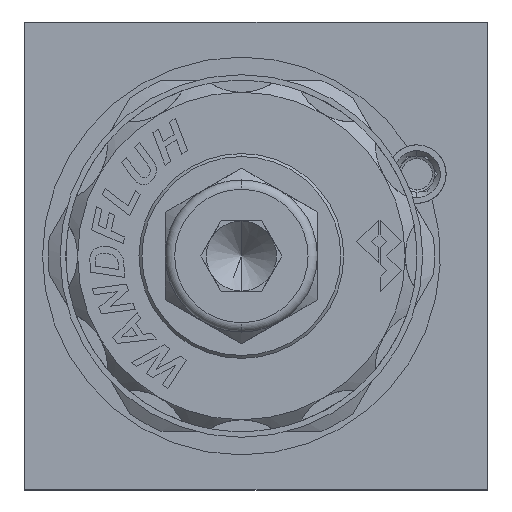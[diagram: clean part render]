
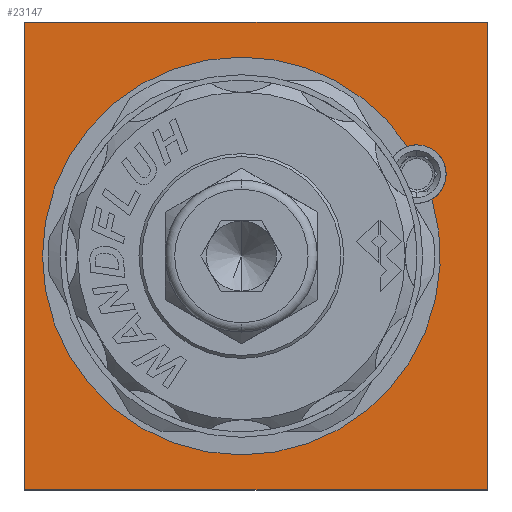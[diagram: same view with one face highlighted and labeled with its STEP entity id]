
A CAD part, left-side view. The second image highlights one B-rep face of the part: STEP entity #23147.
In plain terms, the highlighted planar face has unit normal (-1, 0, 0).
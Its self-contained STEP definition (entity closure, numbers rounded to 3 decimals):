
#702 = AXIS2_PLACEMENT_3D ( 'NONE', #32539, #16149, #35244 ) ;
#949 = CARTESIAN_POINT ( 'NONE',  ( 0., 1.25, 17. ) ) ;
#3431 = DIRECTION ( 'NONE',  ( -1., 0., 0. ) ) ;
#3498 = LINE ( 'NONE', #12699, #31625 ) ;
#4293 = DIRECTION ( 'NONE',  ( 0., 0., 1. ) ) ;
#4836 = CARTESIAN_POINT ( 'NONE',  ( 0., -20.457, 20. ) ) ;
#5235 = DIRECTION ( 'NONE',  ( 0., 1., 0. ) ) ;
#6119 = AXIS2_PLACEMENT_3D ( 'NONE', #28148, #11748, #30837 ) ;
#6897 = DIRECTION ( 'NONE',  ( -1., 0., 0. ) ) ;
#7518 = DIRECTION ( 'NONE',  ( 0., 1., 0. ) ) ;
#10403 = ORIENTED_EDGE ( 'NONE', *, *, #27560, .T. ) ;
#10753 = LINE ( 'NONE', #4836, #31694 ) ;
#11157 = DIRECTION ( 'NONE',  ( -1., 0., 0. ) ) ;
#11729 = VECTOR ( 'NONE', #4293, 1000. ) ;
#11748 = DIRECTION ( 'NONE',  ( -1., 0., 0. ) ) ;
#12353 = CARTESIAN_POINT ( 'NONE',  ( 0., -19.75, -20. ) ) ;
#12699 = CARTESIAN_POINT ( 'NONE',  ( 0., -19.75, -20.707 ) ) ;
#12735 = EDGE_CURVE ( 'NONE', #18059, #20251, #23769, .T. ) ;
#12763 = ORIENTED_EDGE ( 'NONE', *, *, #28170, .T. ) ;
#12892 = CARTESIAN_POINT ( 'NONE',  ( 0., 1.25, -17. ) ) ;
#13168 = DIRECTION ( 'NONE',  ( -1., 0., 0. ) ) ;
#14447 = FACE_OUTER_BOUND ( 'NONE', #18892, .T. ) ;
#15219 = LINE ( 'NONE', #24445, #22519 ) ;
#15296 = FACE_BOUND ( 'NONE', #30835, .T. ) ;
#15353 = CARTESIAN_POINT ( 'NONE',  ( 0., 19.75, -20.707 ) ) ;
#15616 = ORIENTED_EDGE ( 'NONE', *, *, #12735, .F. ) ;
#16149 = DIRECTION ( 'NONE',  ( -1., 0., 0. ) ) ;
#17139 = PLANE ( 'NONE',  #6119 ) ;
#17767 = VERTEX_POINT ( 'NONE', #31822 ) ;
#18059 = VERTEX_POINT ( 'NONE', #12892 ) ;
#18178 = ORIENTED_EDGE ( 'NONE', *, *, #19015, .F. ) ;
#18513 = VERTEX_POINT ( 'NONE', #19615 ) ;
#18892 = EDGE_LOOP ( 'NONE', ( #18178, #21417, #12763, #10403 ) ) ;
#19015 = EDGE_CURVE ( 'NONE', #21242, #18513, #33528, .T. ) ;
#19160 = VERTEX_POINT ( 'NONE', #24232 ) ;
#19615 = CARTESIAN_POINT ( 'NONE',  ( 0., 19.75, 20. ) ) ;
#19736 = CARTESIAN_POINT ( 'NONE',  ( 0., -13.75, 7. ) ) ;
#20251 = VERTEX_POINT ( 'NONE', #20928 ) ;
#20928 = CARTESIAN_POINT ( 'NONE',  ( 0., -15.041, 4.859 ) ) ;
#21242 = VERTEX_POINT ( 'NONE', #22644 ) ;
#21417 = ORIENTED_EDGE ( 'NONE', *, *, #26333, .F. ) ;
#22505 = DIRECTION ( 'NONE',  ( 0., 0., 1. ) ) ;
#22519 = VECTOR ( 'NONE', #5235, 1000. ) ;
#22644 = CARTESIAN_POINT ( 'NONE',  ( 0., 19.75, -20. ) ) ;
#23147 = ADVANCED_FACE ( 'NONE', ( #14447, #15296 ), #17139, .T. ) ;
#23278 = CARTESIAN_POINT ( 'NONE',  ( 0., 1.25, 0. ) ) ;
#23769 = CIRCLE ( 'NONE', #23870, 17. ) ;
#23870 = AXIS2_PLACEMENT_3D ( 'NONE', #23278, #6897, #26010 ) ;
#24232 = CARTESIAN_POINT ( 'NONE',  ( 0., -13.75, 9.5 ) ) ;
#24445 = CARTESIAN_POINT ( 'NONE',  ( 0., -20.457, -20. ) ) ;
#24880 = CARTESIAN_POINT ( 'NONE',  ( 0., -12.938, 9.365 ) ) ;
#25417 = CIRCLE ( 'NONE', #27132, 17. ) ;
#26010 = DIRECTION ( 'NONE',  ( 0., 0., 1. ) ) ;
#26246 = DIRECTION ( 'NONE',  ( 0., 0., 1. ) ) ;
#26333 = EDGE_CURVE ( 'NONE', #27057, #21242, #15219, .T. ) ;
#26552 = EDGE_CURVE ( 'NONE', #20251, #19160, #30570, .T. ) ;
#27057 = VERTEX_POINT ( 'NONE', #12353 ) ;
#27132 = AXIS2_PLACEMENT_3D ( 'NONE', #29571, #13168, #32303 ) ;
#27182 = AXIS2_PLACEMENT_3D ( 'NONE', #27553, #11157, #30273 ) ;
#27221 = VERTEX_POINT ( 'NONE', #949 ) ;
#27553 = CARTESIAN_POINT ( 'NONE',  ( 0., -13.75, 7. ) ) ;
#27560 = EDGE_CURVE ( 'NONE', #17767, #18513, #10753, .T. ) ;
#27731 = CIRCLE ( 'NONE', #702, 17. ) ;
#27953 = AXIS2_PLACEMENT_3D ( 'NONE', #19736, #3431, #22505 ) ;
#28148 = CARTESIAN_POINT ( 'NONE',  ( 0., 19.75, -20. ) ) ;
#28170 = EDGE_CURVE ( 'NONE', #27057, #17767, #3498, .T. ) ;
#28288 = ORIENTED_EDGE ( 'NONE', *, *, #32515, .F. ) ;
#29070 = VERTEX_POINT ( 'NONE', #24880 ) ;
#29571 = CARTESIAN_POINT ( 'NONE',  ( 0., 1.25, 0. ) ) ;
#30273 = DIRECTION ( 'NONE',  ( 0., 0., 1. ) ) ;
#30570 = CIRCLE ( 'NONE', #27953, 2.5 ) ;
#30835 = EDGE_LOOP ( 'NONE', ( #35310, #15616, #34495, #32638, #28288 ) ) ;
#30837 = DIRECTION ( 'NONE',  ( 0., 0., 1. ) ) ;
#31161 = EDGE_CURVE ( 'NONE', #29070, #27221, #25417, .T. ) ;
#31165 = CIRCLE ( 'NONE', #27182, 2.5 ) ;
#31625 = VECTOR ( 'NONE', #26246, 1000. ) ;
#31694 = VECTOR ( 'NONE', #7518, 1000. ) ;
#31822 = CARTESIAN_POINT ( 'NONE',  ( 0., -19.75, 20. ) ) ;
#32303 = DIRECTION ( 'NONE',  ( 0., 0., 1. ) ) ;
#32515 = EDGE_CURVE ( 'NONE', #19160, #29070, #31165, .T. ) ;
#32539 = CARTESIAN_POINT ( 'NONE',  ( 0., 1.25, 0. ) ) ;
#32638 = ORIENTED_EDGE ( 'NONE', *, *, #31161, .F. ) ;
#32930 = EDGE_CURVE ( 'NONE', #27221, #18059, #27731, .T. ) ;
#33528 = LINE ( 'NONE', #15353, #11729 ) ;
#34495 = ORIENTED_EDGE ( 'NONE', *, *, #32930, .F. ) ;
#35244 = DIRECTION ( 'NONE',  ( 0., 0., 1. ) ) ;
#35310 = ORIENTED_EDGE ( 'NONE', *, *, #26552, .F. ) ;
